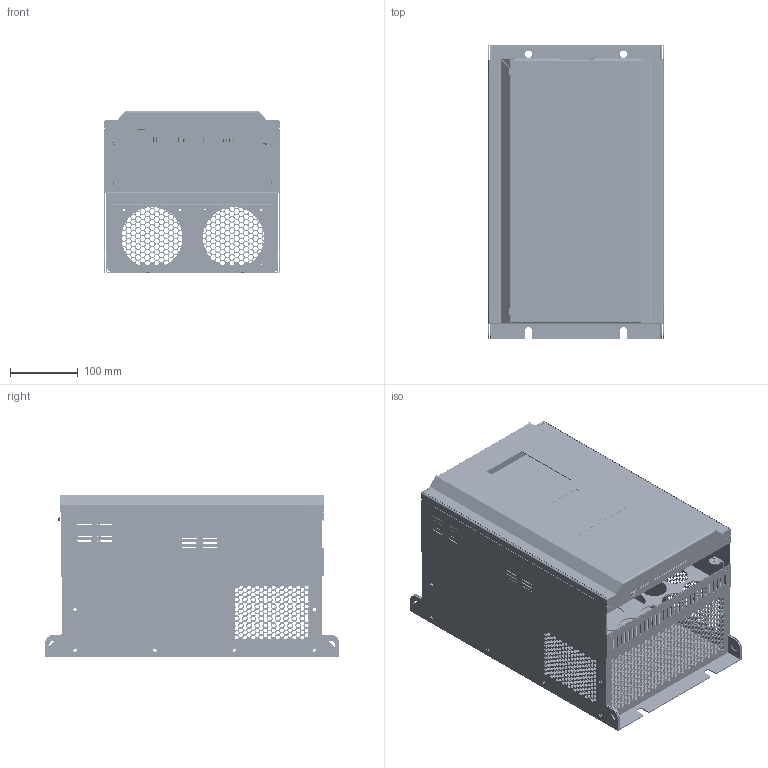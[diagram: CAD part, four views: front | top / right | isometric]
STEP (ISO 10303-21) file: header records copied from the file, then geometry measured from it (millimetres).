
FILE_DESCRIPTION((''),'2;1');
FILE_NAME('2999910068_ASM','2024-06-14T08:32:11',('dylvxj'),(''),'CREO PARAMETRIC BY PTC INC, 2020044','CREO PARAMETRIC BY PTC INC, 2020044','');
FILE_SCHEMA(('CONFIG_CONTROL_DESIGN','SHAPE_APPEARANCE_LAYERS_GROUPS'));
Products named in the file (31): 8ZTD_024_942; S-M5-2; 8ZTD_024_942_ASM; 5ZTD_062_125; SOO-M4-17D5-ZT; SOOS-M3-7D5; 5ZTD_062_125_ASM; 5ZTD_022_457_ASM; 5ZTD-355-098; S_M4_2; 5ZTD_355_098_ASM; 5ZTD_043_273; 5ZTD_043_273_ASM; 5ZTD_043_275; 5ZTD_043_275_ASM; 6JDLM; 5ZTD_355_097_ASM; 5048V1628; SOOS-M3-5; SOOS-M3-13; 5048V1628_ASM; 8ZTD_325_279; 5ZTD_325_028_ASM; 8ZTD_312_133; 8ZTD_048_157; 5JDLM; 5ZTD_312_043_ASM; 8ZTD_315_1737; 8ZTD_130_086; 5ZTD_315_595_ASM; 2999910068_ASM
Assembly tree (86 placements, depth 4):
  2999910068_ASM
    5ZTD_022_457_ASM
      8ZTD_024_942_ASM
        8ZTD_024_942
        S-M5-2  x8
      5ZTD_062_125_ASM
        5ZTD_062_125
        SOO-M4-17D5-ZT  x6
        SOOS-M3-7D5  x7
    5ZTD_355_097_ASM
      5ZTD_355_098_ASM
        5ZTD-355-098
        S_M4_2  x12
      5ZTD_043_273_ASM  x2
        5ZTD_043_273
        S_M4_2
      5ZTD_043_275_ASM  x2
        5ZTD_043_275
        S_M4_2
      6JDLM  x2
    5048V1628_ASM
      5048V1628
      SOOS-M3-5  x4
      SOOS-M3-13  x6
    5ZTD_325_028_ASM
      8ZTD_325_279
      S_M4_2  x8
      S-M5-2  x4
    5ZTD_312_043_ASM
      8ZTD_312_133
      8ZTD_048_157
      5JDLM
    5ZTD_315_595_ASM
      8ZTD_315_1737
      8ZTD_130_086
      5JDLM
Bounding box: 258.8 x 433.56 x 239.11 mm (x, y, z)
Volume: 1183903.5 mm3; surface area: 2522714.2 mm2
Topology: 83 solids, 169 shells, 12048 faces, 45604 edges, 34092 vertices
Faces by surface type: plane 11007, cylinder 1037, sphere 4
Entity records: 343795 total; most frequent: CARTESIAN_POINT 61435, ORIENTED_EDGE 49533, DIRECTION 46385, EDGE_CURVE 30554, VECTOR 28357, LINE 28357, VERTEX_POINT 24064, EDGE_LOOP 10655
